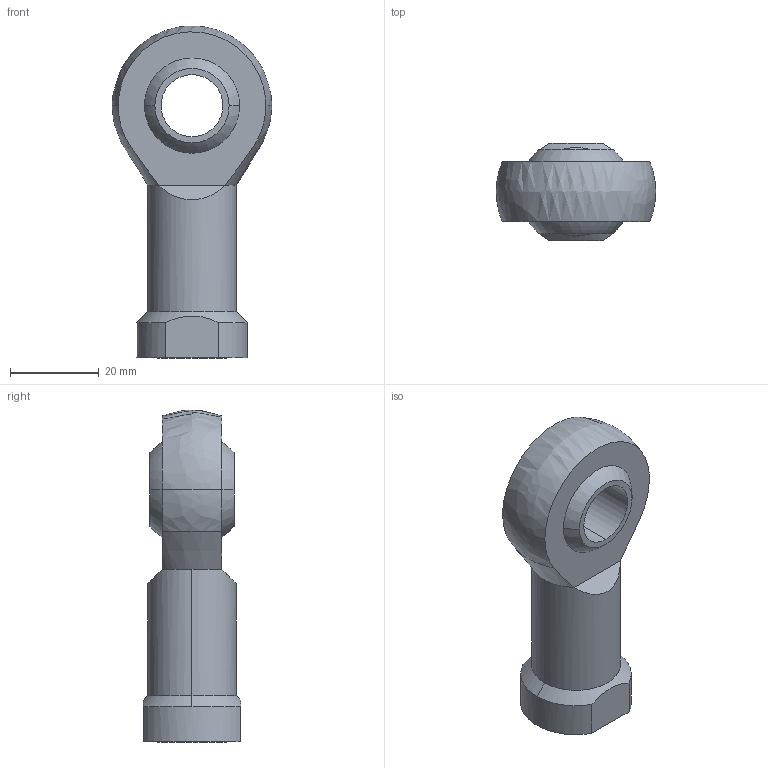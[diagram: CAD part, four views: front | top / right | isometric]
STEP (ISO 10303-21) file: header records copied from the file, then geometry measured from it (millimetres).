
FILE_DESCRIPTION (( 'STEP AP214' ), '1' );
FILE_NAME ('14.STK14x1.5.STEP', '2017-10-28T13:32:57', ( '' ), ( '' ), 'SwSTEP 2.0', 'SolidWorks 2016', '' );
FILE_SCHEMA (( 'AUTOMOTIVE_DESIGN' ));
Length unit declared in the file: millimetre
Products named in the file (1): 14.STK14x1.5
Bounding box: 36 x 22 x 75 mm (x, y, z)
Volume: 22060.4 mm3; surface area: 8141.8 mm2
Topology: 1 solids, 1 shells, 34 faces, 84 edges, 49 vertices
Faces by surface type: cylinder 9, cone 9, plane 9, torus 4, bspline 3
Entity records: 1215 total; most frequent: CARTESIAN_POINT 409, DIRECTION 170, ORIENTED_EDGE 156, EDGE_CURVE 78, AXIS2_PLACEMENT_3D 74, VERTEX_POINT 49, CIRCLE 42, EDGE_LOOP 39
